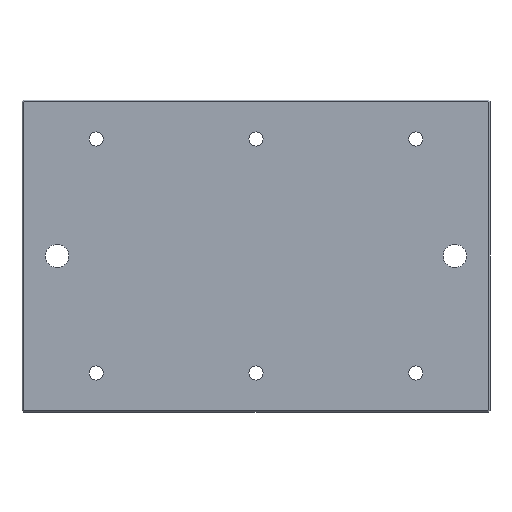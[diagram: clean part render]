
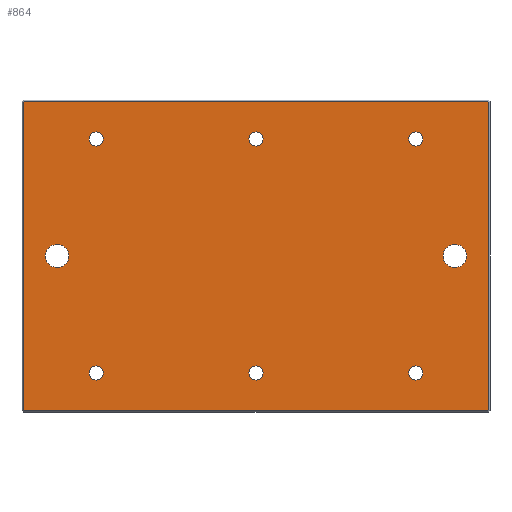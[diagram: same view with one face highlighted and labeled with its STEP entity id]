
A CAD part, front view. The second image highlights one B-rep face of the part: STEP entity #864.
In plain terms, the highlighted planar face has unit normal (0, -1, 0).
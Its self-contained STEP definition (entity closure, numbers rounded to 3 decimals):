
#1=CARTESIAN_POINT('',(-205.,-25.,-150.));
#2=DIRECTION('',(0.,1.,0.));
#3=DIRECTION('',(1.,0.,0.));
#4=AXIS2_PLACEMENT_3D('',#1,#2,#3);
#6=CARTESIAN_POINT('',(-205.,-25.,-150.));
#7=DIRECTION('',(0.,1.,0.));
#8=DIRECTION('',(-1.,0.,0.));
#9=AXIS2_PLACEMENT_3D('',#6,#7,#8);
#11=CARTESIAN_POINT('',(0.,-25.,-150.));
#12=DIRECTION('',(0.,1.,0.));
#13=DIRECTION('',(1.,0.,0.));
#14=AXIS2_PLACEMENT_3D('',#11,#12,#13);
#16=CARTESIAN_POINT('',(0.,-25.,-150.));
#17=DIRECTION('',(0.,1.,0.));
#18=DIRECTION('',(-1.,0.,0.));
#19=AXIS2_PLACEMENT_3D('',#16,#17,#18);
#21=CARTESIAN_POINT('',(205.,-25.,-150.));
#22=DIRECTION('',(0.,1.,0.));
#23=DIRECTION('',(1.,0.,0.));
#24=AXIS2_PLACEMENT_3D('',#21,#22,#23);
#26=CARTESIAN_POINT('',(205.,-25.,-150.));
#27=DIRECTION('',(0.,1.,0.));
#28=DIRECTION('',(-1.,0.,0.));
#29=AXIS2_PLACEMENT_3D('',#26,#27,#28);
#31=CARTESIAN_POINT('',(-205.,-25.,150.));
#32=DIRECTION('',(0.,-1.,0.));
#33=DIRECTION('',(1.,0.,0.));
#34=AXIS2_PLACEMENT_3D('',#31,#32,#33);
#36=CARTESIAN_POINT('',(-205.,-25.,150.));
#37=DIRECTION('',(0.,-1.,0.));
#38=DIRECTION('',(-1.,0.,0.));
#39=AXIS2_PLACEMENT_3D('',#36,#37,#38);
#41=CARTESIAN_POINT('',(0.,-25.,150.));
#42=DIRECTION('',(0.,-1.,0.));
#43=DIRECTION('',(1.,0.,0.));
#44=AXIS2_PLACEMENT_3D('',#41,#42,#43);
#46=CARTESIAN_POINT('',(0.,-25.,150.));
#47=DIRECTION('',(0.,-1.,0.));
#48=DIRECTION('',(-1.,0.,0.));
#49=AXIS2_PLACEMENT_3D('',#46,#47,#48);
#51=CARTESIAN_POINT('',(205.,-25.,150.));
#52=DIRECTION('',(0.,-1.,0.));
#53=DIRECTION('',(1.,0.,0.));
#54=AXIS2_PLACEMENT_3D('',#51,#52,#53);
#56=CARTESIAN_POINT('',(205.,-25.,150.));
#57=DIRECTION('',(0.,-1.,0.));
#58=DIRECTION('',(-1.,0.,0.));
#59=AXIS2_PLACEMENT_3D('',#56,#57,#58);
#61=CARTESIAN_POINT('',(-255.,-25.,0.));
#62=DIRECTION('',(0.,-1.,0.));
#63=DIRECTION('',(1.,0.,0.));
#64=AXIS2_PLACEMENT_3D('',#61,#62,#63);
#66=CARTESIAN_POINT('',(-255.,-25.,0.));
#67=DIRECTION('',(0.,-1.,0.));
#68=DIRECTION('',(-1.,0.,0.));
#69=AXIS2_PLACEMENT_3D('',#66,#67,#68);
#71=CARTESIAN_POINT('',(255.,-25.,0.));
#72=DIRECTION('',(0.,1.,0.));
#73=DIRECTION('',(-1.,0.,0.));
#74=AXIS2_PLACEMENT_3D('',#71,#72,#73);
#76=CARTESIAN_POINT('',(255.,-25.,0.));
#77=DIRECTION('',(0.,1.,0.));
#78=DIRECTION('',(1.,0.,0.));
#79=AXIS2_PLACEMENT_3D('',#76,#77,#78);
#81=DIRECTION('',(0.,0.,-1.));
#82=VECTOR('',#81,394.343);
#83=CARTESIAN_POINT('',(-298.,-25.,197.172));
#84=LINE('',#83,#82);
#85=DIRECTION('',(-0.707,0.,-0.707));
#86=VECTOR('',#85,1.172);
#87=CARTESIAN_POINT('',(-297.172,-25.,198.));
#88=LINE('',#87,#86);
#89=DIRECTION('',(-1.,0.,0.));
#90=VECTOR('',#89,594.343);
#91=CARTESIAN_POINT('',(297.172,-25.,198.));
#92=LINE('',#91,#90);
#93=DIRECTION('',(-0.707,0.,0.707));
#94=VECTOR('',#93,1.172);
#95=CARTESIAN_POINT('',(298.,-25.,197.172));
#96=LINE('',#95,#94);
#97=DIRECTION('',(0.,0.,1.));
#98=VECTOR('',#97,394.343);
#99=CARTESIAN_POINT('',(298.,-25.,-197.172));
#100=LINE('',#99,#98);
#101=DIRECTION('',(0.707,0.,0.707));
#102=VECTOR('',#101,1.172);
#103=CARTESIAN_POINT('',(297.172,-25.,-198.));
#104=LINE('',#103,#102);
#105=DIRECTION('',(1.,0.,0.));
#106=VECTOR('',#105,594.343);
#107=CARTESIAN_POINT('',(-297.172,-25.,-198.));
#108=LINE('',#107,#106);
#109=DIRECTION('',(0.707,0.,-0.707));
#110=VECTOR('',#109,1.172);
#111=CARTESIAN_POINT('',(-298.,-25.,-197.172));
#112=LINE('',#111,#110);
#625=CARTESIAN_POINT('',(-196.,-25.,-150.));
#626=CARTESIAN_POINT('',(-214.,-25.,-150.));
#627=VERTEX_POINT('',#625);
#628=VERTEX_POINT('',#626);
#641=CARTESIAN_POINT('',(9.,-25.,-150.));
#642=CARTESIAN_POINT('',(-9.,-25.,-150.));
#643=VERTEX_POINT('',#641);
#644=VERTEX_POINT('',#642);
#657=CARTESIAN_POINT('',(214.,-25.,-150.));
#658=CARTESIAN_POINT('',(196.,-25.,-150.));
#659=VERTEX_POINT('',#657);
#660=VERTEX_POINT('',#658);
#673=CARTESIAN_POINT('',(-196.,-25.,150.));
#674=VERTEX_POINT('',#673);
#677=CARTESIAN_POINT('',(-214.,-25.,150.));
#678=VERTEX_POINT('',#677);
#689=CARTESIAN_POINT('',(9.,-25.,150.));
#690=VERTEX_POINT('',#689);
#693=CARTESIAN_POINT('',(-9.,-25.,150.));
#694=VERTEX_POINT('',#693);
#705=CARTESIAN_POINT('',(214.,-25.,150.));
#706=VERTEX_POINT('',#705);
#709=CARTESIAN_POINT('',(196.,-25.,150.));
#710=VERTEX_POINT('',#709);
#713=CARTESIAN_POINT('',(-240.,-25.,0.));
#714=CARTESIAN_POINT('',(-270.,-25.,0.));
#715=VERTEX_POINT('',#713);
#716=VERTEX_POINT('',#714);
#722=CARTESIAN_POINT('',(240.,-25.,0.));
#724=VERTEX_POINT('',#722);
#726=CARTESIAN_POINT('',(270.,-25.,0.));
#728=VERTEX_POINT('',#726);
#733=CARTESIAN_POINT('',(-298.,-25.,197.172));
#734=CARTESIAN_POINT('',(-298.,-25.,-197.172));
#735=VERTEX_POINT('',#733);
#736=VERTEX_POINT('',#734);
#737=CARTESIAN_POINT('',(-297.172,-25.,-198.));
#738=VERTEX_POINT('',#737);
#743=CARTESIAN_POINT('',(297.172,-25.,-198.));
#744=VERTEX_POINT('',#743);
#745=CARTESIAN_POINT('',(298.,-25.,-197.172));
#746=VERTEX_POINT('',#745);
#751=CARTESIAN_POINT('',(298.,-25.,197.172));
#752=VERTEX_POINT('',#751);
#753=CARTESIAN_POINT('',(297.172,-25.,198.));
#754=VERTEX_POINT('',#753);
#759=CARTESIAN_POINT('',(-297.172,-25.,198.));
#760=VERTEX_POINT('',#759);
#793=CARTESIAN_POINT('',(0.,-25.,0.));
#794=DIRECTION('',(0.,1.,0.));
#795=DIRECTION('',(1.,0.,0.));
#796=AXIS2_PLACEMENT_3D('',#793,#794,#795);
#797=PLANE('',#796);
#799=ORIENTED_EDGE('',*,*,#798,.F.);
#801=ORIENTED_EDGE('',*,*,#800,.F.);
#803=ORIENTED_EDGE('',*,*,#802,.F.);
#805=ORIENTED_EDGE('',*,*,#804,.F.);
#807=ORIENTED_EDGE('',*,*,#806,.F.);
#809=ORIENTED_EDGE('',*,*,#808,.F.);
#811=ORIENTED_EDGE('',*,*,#810,.F.);
#813=ORIENTED_EDGE('',*,*,#812,.F.);
#814=EDGE_LOOP('',(#799,#801,#803,#805,#807,#809,#811,#813));
#815=FACE_OUTER_BOUND('',#814,.F.);
#817=ORIENTED_EDGE('',*,*,#816,.F.);
#819=ORIENTED_EDGE('',*,*,#818,.F.);
#820=EDGE_LOOP('',(#817,#819));
#821=FACE_BOUND('',#820,.F.);
#823=ORIENTED_EDGE('',*,*,#822,.F.);
#825=ORIENTED_EDGE('',*,*,#824,.F.);
#826=EDGE_LOOP('',(#823,#825));
#827=FACE_BOUND('',#826,.F.);
#829=ORIENTED_EDGE('',*,*,#828,.T.);
#831=ORIENTED_EDGE('',*,*,#830,.T.);
#832=EDGE_LOOP('',(#829,#831));
#833=FACE_BOUND('',#832,.F.);
#835=ORIENTED_EDGE('',*,*,#834,.T.);
#837=ORIENTED_EDGE('',*,*,#836,.T.);
#838=EDGE_LOOP('',(#835,#837));
#839=FACE_BOUND('',#838,.F.);
#841=ORIENTED_EDGE('',*,*,#840,.T.);
#843=ORIENTED_EDGE('',*,*,#842,.T.);
#844=EDGE_LOOP('',(#841,#843));
#845=FACE_BOUND('',#844,.F.);
#847=ORIENTED_EDGE('',*,*,#846,.T.);
#849=ORIENTED_EDGE('',*,*,#848,.T.);
#850=EDGE_LOOP('',(#847,#849));
#851=FACE_BOUND('',#850,.F.);
#853=ORIENTED_EDGE('',*,*,#852,.F.);
#855=ORIENTED_EDGE('',*,*,#854,.F.);
#856=EDGE_LOOP('',(#853,#855));
#857=FACE_BOUND('',#856,.F.);
#859=ORIENTED_EDGE('',*,*,#858,.F.);
#861=ORIENTED_EDGE('',*,*,#860,.F.);
#862=EDGE_LOOP('',(#859,#861));
#863=FACE_BOUND('',#862,.F.);
#864=ADVANCED_FACE('',(#815,#821,#827,#833,#839,#845,#851,#857,#863),#797,.F.);
#5=CIRCLE('',#4,9.);
#10=CIRCLE('',#9,9.);
#15=CIRCLE('',#14,9.);
#20=CIRCLE('',#19,9.);
#25=CIRCLE('',#24,9.);
#30=CIRCLE('',#29,9.);
#35=CIRCLE('',#34,9.);
#40=CIRCLE('',#39,9.);
#45=CIRCLE('',#44,9.);
#50=CIRCLE('',#49,9.);
#55=CIRCLE('',#54,9.);
#60=CIRCLE('',#59,9.);
#65=CIRCLE('',#64,15.);
#70=CIRCLE('',#69,15.);
#75=CIRCLE('',#74,15.);
#80=CIRCLE('',#79,15.);
#798=EDGE_CURVE('',#735,#736,#84,.T.);
#800=EDGE_CURVE('',#760,#735,#88,.T.);
#802=EDGE_CURVE('',#754,#760,#92,.T.);
#804=EDGE_CURVE('',#752,#754,#96,.T.);
#806=EDGE_CURVE('',#746,#752,#100,.T.);
#808=EDGE_CURVE('',#744,#746,#104,.T.);
#810=EDGE_CURVE('',#738,#744,#108,.T.);
#812=EDGE_CURVE('',#736,#738,#112,.T.);
#816=EDGE_CURVE('',#643,#644,#15,.T.);
#818=EDGE_CURVE('',#644,#643,#20,.T.);
#822=EDGE_CURVE('',#659,#660,#25,.T.);
#824=EDGE_CURVE('',#660,#659,#30,.T.);
#828=EDGE_CURVE('',#674,#678,#35,.T.);
#830=EDGE_CURVE('',#678,#674,#40,.T.);
#834=EDGE_CURVE('',#690,#694,#45,.T.);
#836=EDGE_CURVE('',#694,#690,#50,.T.);
#840=EDGE_CURVE('',#706,#710,#55,.T.);
#842=EDGE_CURVE('',#710,#706,#60,.T.);
#846=EDGE_CURVE('',#715,#716,#65,.T.);
#848=EDGE_CURVE('',#716,#715,#70,.T.);
#852=EDGE_CURVE('',#724,#728,#75,.T.);
#854=EDGE_CURVE('',#728,#724,#80,.T.);
#858=EDGE_CURVE('',#627,#628,#5,.T.);
#860=EDGE_CURVE('',#628,#627,#10,.T.);
